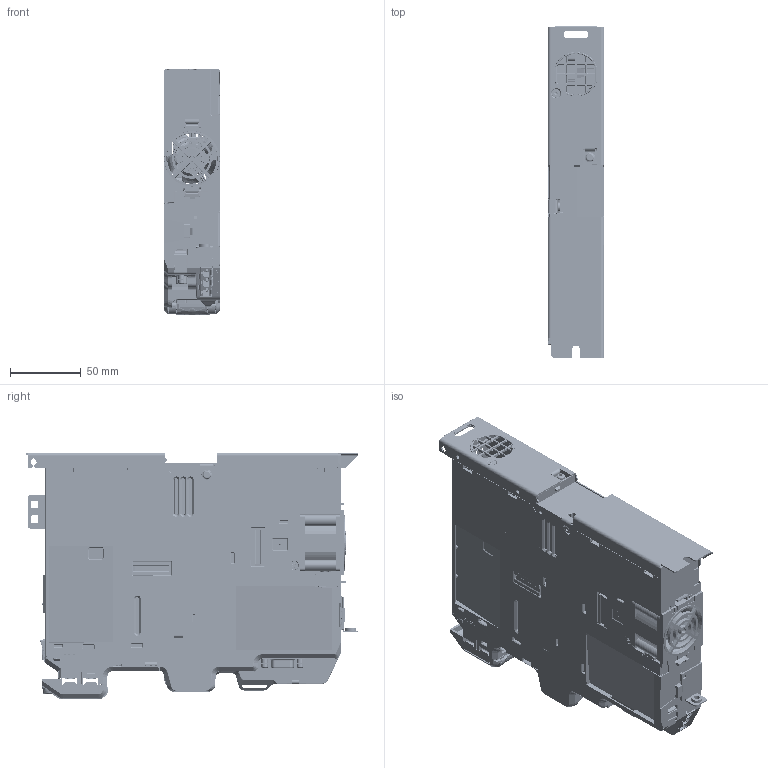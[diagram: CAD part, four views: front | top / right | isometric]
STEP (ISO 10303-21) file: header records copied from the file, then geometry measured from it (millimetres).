
FILE_DESCRIPTION((''),'2;1');
FILE_NAME('RR_FR01_WO_ACC','2017-09-07T',('spatil4'),(''),'PRO/ENGINEER BY PARAMETRIC TECHNOLOGY CORPORATION, 2011490','PRO/ENGINEER BY PARAMETRIC TECHNOLOGY CORPORATION, 2011490','');
FILE_SCHEMA(('STRUCTURAL_ANALYSIS_DESIGN'));
Products named in the file (1): RR_FR01_WO_ACC
Bounding box: 40.09 x 234 x 174.03 mm (x, y, z)
Surface area: 448856 mm2 (no closed solid volume)
Topology: 0 solids, 565 shells, 7563 faces, 34633 edges, 26514 vertices
Faces by surface type: plane 4855, cylinder 1752, cone 415, bspline 353, torus 142, sphere 34, extrusion 12
Entity records: 379093 total; most frequent: CARTESIAN_POINT 121829, ORIENTED_EDGE 47857, DIRECTION 47011, EDGE_CURVE 34621, VERTEX_POINT 26514, VECTOR 23307, LINE 23295, AXIS2_PLACEMENT_3D 11852
